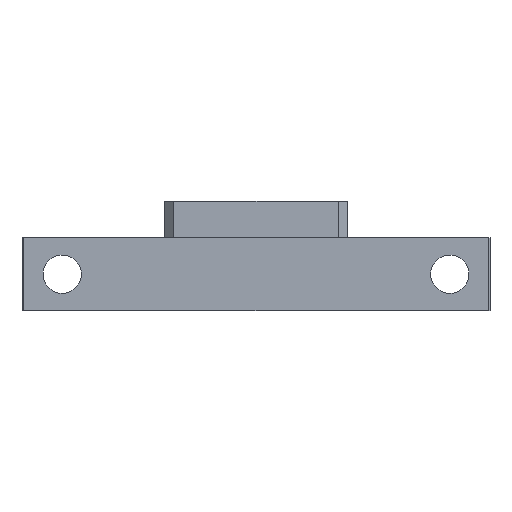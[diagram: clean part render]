
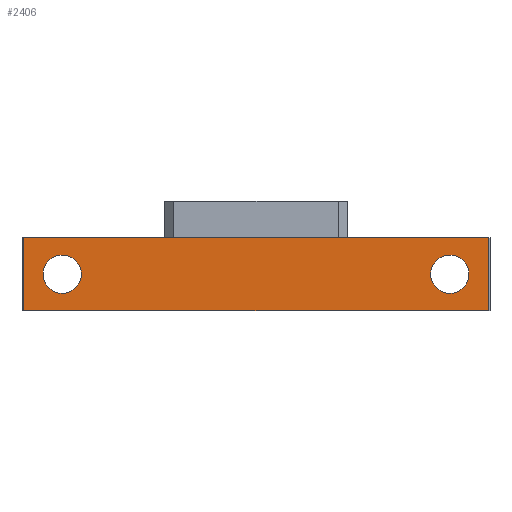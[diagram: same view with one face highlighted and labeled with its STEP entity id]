
A CAD part, front view. The second image highlights one B-rep face of the part: STEP entity #2406.
In plain terms, the highlighted planar face has unit normal (0, -1, 0).
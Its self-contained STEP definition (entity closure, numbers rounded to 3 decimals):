
#18 = VERTEX_POINT ( 'NONE', #3100 ) ;
#51 = DIRECTION ( 'NONE',  ( 0., 0., 1. ) ) ;
#131 = CARTESIAN_POINT ( 'NONE',  ( -63.5, -41., 0. ) ) ;
#210 = CARTESIAN_POINT ( 'NONE',  ( -53., -41., 10. ) ) ;
#240 = CIRCLE ( 'NONE', #910, 5.25 ) ;
#352 = AXIS2_PLACEMENT_3D ( 'NONE', #4978, #2977, #4334 ) ;
#376 = ORIENTED_EDGE ( 'NONE', *, *, #3599, .F. ) ;
#452 = CARTESIAN_POINT ( 'NONE',  ( 53., -41., 10. ) ) ;
#538 = VECTOR ( 'NONE', #2616, 1000. ) ;
#877 = EDGE_LOOP ( 'NONE', ( #376, #2668 ) ) ;
#910 = AXIS2_PLACEMENT_3D ( 'NONE', #210, #4647, #1026 ) ;
#929 = EDGE_CURVE ( 'NONE', #4945, #4542, #240, .T. ) ;
#1026 = DIRECTION ( 'NONE',  ( 0., 0., 1. ) ) ;
#1103 = LINE ( 'NONE', #3886, #538 ) ;
#1156 = FACE_BOUND ( 'NONE', #877, .T. ) ;
#1193 = CARTESIAN_POINT ( 'NONE',  ( -63.5, -41., 0. ) ) ;
#1305 = ORIENTED_EDGE ( 'NONE', *, *, #5125, .F. ) ;
#1314 = ORIENTED_EDGE ( 'NONE', *, *, #4577, .T. ) ;
#1360 = VERTEX_POINT ( 'NONE', #1560 ) ;
#1366 = CIRCLE ( 'NONE', #1783, 5.25 ) ;
#1384 = CARTESIAN_POINT ( 'NONE',  ( -63.5, -41., 20. ) ) ;
#1387 = FACE_BOUND ( 'NONE', #4794, .T. ) ;
#1405 = CARTESIAN_POINT ( 'NONE',  ( 53., -41., 15.25 ) ) ;
#1413 = DIRECTION ( 'NONE',  ( 0., 0., 1. ) ) ;
#1560 = CARTESIAN_POINT ( 'NONE',  ( 63.5, -41., 20. ) ) ;
#1670 = AXIS2_PLACEMENT_3D ( 'NONE', #452, #4373, #2857 ) ;
#1674 = CARTESIAN_POINT ( 'NONE',  ( -63.5, -41., 20. ) ) ;
#1676 = LINE ( 'NONE', #131, #2242 ) ;
#1697 = CIRCLE ( 'NONE', #2038, 5.25 ) ;
#1783 = AXIS2_PLACEMENT_3D ( 'NONE', #2130, #4139, #1413 ) ;
#1986 = VERTEX_POINT ( 'NONE', #4754 ) ;
#2038 = AXIS2_PLACEMENT_3D ( 'NONE', #3131, #4748, #51 ) ;
#2130 = CARTESIAN_POINT ( 'NONE',  ( 53., -41., 10. ) ) ;
#2169 = LINE ( 'NONE', #1384, #2910 ) ;
#2180 = ORIENTED_EDGE ( 'NONE', *, *, #3333, .T. ) ;
#2193 = PLANE ( 'NONE',  #352 ) ;
#2242 = VECTOR ( 'NONE', #4107, 1000. ) ;
#2406 = ADVANCED_FACE ( 'NONE', ( #1156, #1387, #2745 ), #2193, .F. ) ;
#2429 = VERTEX_POINT ( 'NONE', #4851 ) ;
#2445 = ORIENTED_EDGE ( 'NONE', *, *, #3735, .F. ) ;
#2616 = DIRECTION ( 'NONE',  ( 0., 0., -1. ) ) ;
#2668 = ORIENTED_EDGE ( 'NONE', *, *, #929, .F. ) ;
#2745 = FACE_OUTER_BOUND ( 'NONE', #4937, .T. ) ;
#2813 = ORIENTED_EDGE ( 'NONE', *, *, #3701, .T. ) ;
#2857 = DIRECTION ( 'NONE',  ( 0., 0., 1. ) ) ;
#2877 = DIRECTION ( 'NONE',  ( 1., 0., 0. ) ) ;
#2910 = VECTOR ( 'NONE', #2877, 1000. ) ;
#2975 = CARTESIAN_POINT ( 'NONE',  ( -53., -41., 15.25 ) ) ;
#2977 = DIRECTION ( 'NONE',  ( 0., 1., 0. ) ) ;
#3100 = CARTESIAN_POINT ( 'NONE',  ( 53., -41., 4.75 ) ) ;
#3131 = CARTESIAN_POINT ( 'NONE',  ( -53., -41., 10. ) ) ;
#3225 = VERTEX_POINT ( 'NONE', #1193 ) ;
#3333 = EDGE_CURVE ( 'NONE', #3894, #18, #3772, .T. ) ;
#3370 = DIRECTION ( 'NONE',  ( 0., 0., -1. ) ) ;
#3599 = EDGE_CURVE ( 'NONE', #4542, #4945, #1697, .T. ) ;
#3628 = CARTESIAN_POINT ( 'NONE',  ( -53., -41., 4.75 ) ) ;
#3678 = LINE ( 'NONE', #1674, #4707 ) ;
#3701 = EDGE_CURVE ( 'NONE', #1986, #3225, #3678, .T. ) ;
#3735 = EDGE_CURVE ( 'NONE', #1360, #2429, #1103, .T. ) ;
#3772 = CIRCLE ( 'NONE', #1670, 5.25 ) ;
#3886 = CARTESIAN_POINT ( 'NONE',  ( 63.5, -41., 20. ) ) ;
#3894 = VERTEX_POINT ( 'NONE', #1405 ) ;
#4107 = DIRECTION ( 'NONE',  ( 1., 0., 0. ) ) ;
#4139 = DIRECTION ( 'NONE',  ( 0., 1., 0. ) ) ;
#4297 = ORIENTED_EDGE ( 'NONE', *, *, #4390, .T. ) ;
#4334 = DIRECTION ( 'NONE',  ( 0., 0., 1. ) ) ;
#4373 = DIRECTION ( 'NONE',  ( 0., 1., 0. ) ) ;
#4390 = EDGE_CURVE ( 'NONE', #3225, #2429, #1676, .T. ) ;
#4542 = VERTEX_POINT ( 'NONE', #2975 ) ;
#4577 = EDGE_CURVE ( 'NONE', #18, #3894, #1366, .T. ) ;
#4647 = DIRECTION ( 'NONE',  ( 0., -1., 0. ) ) ;
#4707 = VECTOR ( 'NONE', #3370, 1000. ) ;
#4748 = DIRECTION ( 'NONE',  ( 0., -1., 0. ) ) ;
#4754 = CARTESIAN_POINT ( 'NONE',  ( -63.5, -41., 20. ) ) ;
#4794 = EDGE_LOOP ( 'NONE', ( #2180, #1314 ) ) ;
#4851 = CARTESIAN_POINT ( 'NONE',  ( 63.5, -41., 0. ) ) ;
#4937 = EDGE_LOOP ( 'NONE', ( #4297, #2445, #1305, #2813 ) ) ;
#4945 = VERTEX_POINT ( 'NONE', #3628 ) ;
#4978 = CARTESIAN_POINT ( 'NONE',  ( -63.5, -41., 20. ) ) ;
#5125 = EDGE_CURVE ( 'NONE', #1986, #1360, #2169, .T. ) ;
